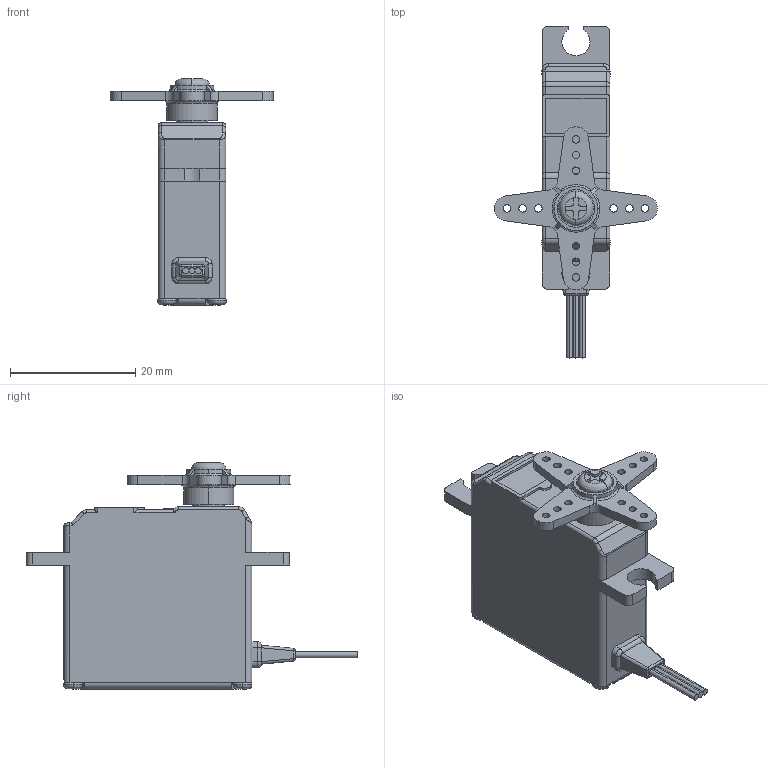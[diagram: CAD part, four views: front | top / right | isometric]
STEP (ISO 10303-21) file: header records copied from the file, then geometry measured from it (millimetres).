
FILE_DESCRIPTION (( 'STEP AP203' ), '1' );
FILE_NAME ('AD1FA(3D).STEP', '2022-12-06T01:12:36', ( '' ), ( '' ), 'SwSTEP 2.0', 'SolidWorks 2022', '' );
FILE_SCHEMA (( 'CONFIG_CONTROL_DESIGN' ));
Length unit declared in the file: millimetre
Products named in the file (4): SCREW M3x6; AD1FA(3D); HORN; AD1FA
Assembly tree (3 placements, depth 2):
  AD1FA(3D)
    AD1FA
    HORN
    SCREW M3x6
Bounding box: 25.99 x 52.9 x 36.1 mm (x, y, z)
Volume: 10057.1 mm3; surface area: 4461.1 mm2
Topology: 3 solids, 3 shells, 321 faces, 852 edges, 550 vertices
Faces by surface type: cylinder 146, plane 116, torus 33, bspline 20, cone 6
Entity records: 12623 total; most frequent: CARTESIAN_POINT 4163, DIRECTION 1706, ORIENTED_EDGE 1704, EDGE_CURVE 852, AXIS2_PLACEMENT_3D 646, VERTEX_POINT 550, LINE 414, VECTOR 414
